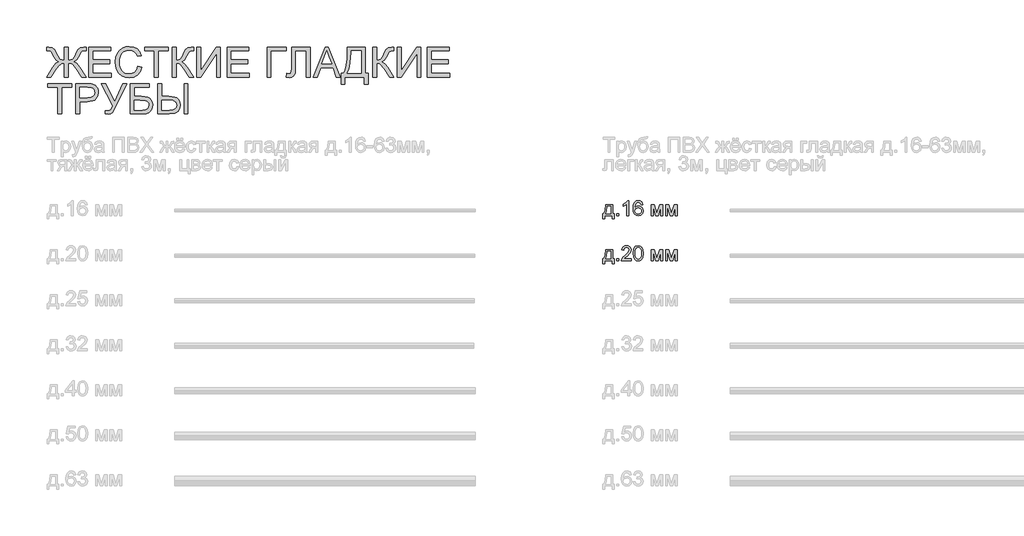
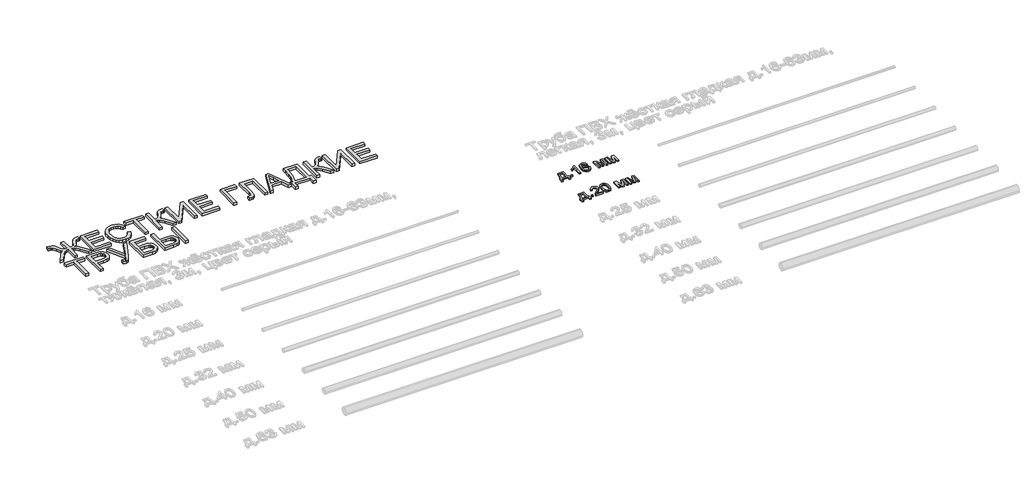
# One storey, part 92 of 98: 3 proxies.
"""IFC4 building model written with IfcOpenShell, lengths in millimetres."""

from ifc_helpers import new_model, si_unit, origin, origin_with_axes, place, context, project, spatial, polyline, outline, extrude, element, save

model = new_model("IFC4")

# Units and contexts
model_context = context("Model", 3, world=origin())
ifc_project = project(units=[si_unit("LENGTHUNIT", "METRE", prefix="MILLI")], contexts=[model_context])

# Site, building, storey
site = spatial("IfcSite", under=ifc_project)
building = spatial("IfcBuilding", under=site)
storey = spatial("IfcBuildingStorey", under=building, Name="Этаж 01", Elevation=0.0)

# Proxies
placement = place(None, origin())
element("IfcBuildingElementProxy", 1, Name="100", ObjectType="100", at=placement, inside=storey, context=model_context, shape_type="SweptSolid", body=[
    extrude(outline(polyline([(3673.0141865, -3563.7647458), (3720.1030819, -3563.7647458), (3720.1030819, -3624.9803098), (3729.520861, -3624.9803098), (3729.520861, -3657.9425366), (3716.9638222, -3657.9425366), (3716.9638222, -3637.5373486), (3665.1660373, -3637.5373486), (3665.1660373, -3657.9425366), (3652.6089985, -3657.9425366), (3652.6089985, -3624.9803098), (3660.4571478, -3624.9803098), (3670.1569697, -3601.031192), (3673.0141865, -3563.7647458)]), holes=[polyline([(3684.0015955, -3576.3217846), (3681.0585395, -3604.9307411), (3674.5838164, -3624.9803098), (3707.5460431, -3624.9803098), (3707.5460431, -3576.3217846), (3684.0015955, -3576.3217846)])]), origin_with_axes(), (0.0, 0.0, 1.0), 10.0),
    extrude(outline(polyline([(3746.7867893, -3637.5373486), (3746.7867893, -3624.9803098), (3759.3438281, -3624.9803098), (3759.3438281, -3637.5373486), (3746.7867893, -3637.5373486)])), origin_with_axes(), (0.0, 0.0, 1.0), 10.0),
    extrude(outline(polyline([(3826.8379114, -3637.5373486), (3814.2808727, -3637.5373486), (3814.2808727, -3559.25206), (3802.3860215, -3567.7256087), (3789.1667951, -3574.0654417), (3789.1667951, -3562.195116), (3807.5731576, -3550.4474176), (3818.7445076, -3537.0810385), (3826.8379114, -3537.0810385), (3826.8379114, -3637.5373486)])), origin_with_axes(), (0.0, 0.0, 1.0), 10.0),
    extrude(outline(polyline([(3921.0157022, -3563.7647458), (3908.4586634, -3565.3343757), (3903.700723, -3554.8620016), (3891.1191587, -3549.6380772), (3879.7883933, -3552.6792351), (3871.2167428, -3564.0958396), (3867.6482874, -3586.4753277), (3878.7215355, -3576.4566747), (3892.4435339, -3573.1825249), (3904.0440795, -3575.4204737), (3913.7806896, -3582.1343201), (3920.3841715, -3592.3920964), (3922.5853321, -3605.2618349), (3918.4405282, -3622.5890769), (3907.0361864, -3634.85181), (3890.5795985, -3639.1069785), (3876.3333682, -3636.2865498), (3864.9872743, -3627.8252639), (3857.5652551, -3612.8892549), (3855.0912487, -3590.644657), (3857.8381009, -3565.6348127), (3866.0786576, -3548.5344312), (3877.3297153, -3539.9443867), (3891.9039737, -3537.0810385), (3902.9220394, -3538.8530034), (3911.7450759, -3544.1688982), (3917.9254935, -3552.61179), (3921.0157022, -3563.7647458)]), holes=[polyline([(3867.6482874, -3605.0656312), (3870.5545552, -3615.9426755), (3878.2800771, -3623.8398757), (3889.5985798, -3626.5499397), (3897.8851218, -3625.1458567), (3904.3996988, -3620.9336079), (3908.6211447, -3614.311732), (3910.0282933, -3605.6787678), (3908.6395388, -3597.3922259), (3904.4732752, -3591.0738526), (3897.8483336, -3587.0731359), (3889.083545, -3585.7395637), (3873.8900186, -3591.0738526), (3869.2087202, -3597.2389417), (3867.6482874, -3605.0656312)])]), origin_with_axes(), (0.0, 0.0, 1.0), 10.0),
    extrude(outline(polyline([(3975.9527468, -3563.7647458), (3997.5596827, -3563.7647458), (4014.2124743, -3622.8220688), (4032.1651157, -3563.7647458), (4052.8646093, -3563.7647458), (4052.8646093, -3637.5373486), (4040.3075705, -3637.5373486), (4040.3075705, -3578.1366691), (4022.2568273, -3637.5373486), (4005.7757139, -3637.5373486), (3988.5097856, -3575.291715), (3988.5097856, -3637.5373486), (3975.9527468, -3637.5373486), (3975.9527468, -3563.7647458)])), origin_with_axes(), (0.0, 0.0, 1.0), 10.0),
    extrude(outline(polyline([(4071.7001674, -3563.7647458), (4093.3071033, -3563.7647458), (4109.9598949, -3622.8220688), (4127.9125363, -3563.7647458), (4148.6120299, -3563.7647458), (4148.6120299, -3637.5373486), (4136.0549911, -3637.5373486), (4136.0549911, -3578.1366691), (4118.0042479, -3637.5373486), (4101.5231345, -3637.5373486), (4084.2572062, -3575.291715), (4084.2572062, -3637.5373486), (4071.7001674, -3637.5373486), (4071.7001674, -3563.7647458)])), origin_with_axes(), (0.0, 0.0, 1.0), 10.0),
])
element("IfcBuildingElementProxy", 2, Name="100", ObjectType="100", at=placement, inside=storey, context=model_context, shape_type="SweptSolid", body=[
    extrude(outline(polyline([(3673.0141865, -3863.7647458), (3720.1030819, -3863.7647458), (3720.1030819, -3924.9803098), (3729.520861, -3924.9803098), (3729.520861, -3957.9425366), (3716.9638222, -3957.9425366), (3716.9638222, -3937.5373486), (3665.1660373, -3937.5373486), (3665.1660373, -3957.9425366), (3652.6089985, -3957.9425366), (3652.6089985, -3924.9803098), (3660.4571478, -3924.9803098), (3670.1569697, -3901.031192), (3673.0141865, -3863.7647458)]), holes=[polyline([(3684.0015955, -3876.3217846), (3681.0585395, -3904.9307411), (3674.5838164, -3924.9803098), (3707.5460431, -3924.9803098), (3707.5460431, -3876.3217846), (3684.0015955, -3876.3217846)])]), origin_with_axes(), (0.0, 0.0, 1.0), 10.0),
    extrude(outline(polyline([(3746.7867893, -3937.5373486), (3746.7867893, -3924.9803098), (3759.3438281, -3924.9803098), (3759.3438281, -3937.5373486), (3746.7867893, -3937.5373486)])), origin_with_axes(), (0.0, 0.0, 1.0), 10.0),
    extrude(outline(polyline([(3844.1038398, -3924.9803098), (3844.1038398, -3937.5373486), (3778.1793862, -3937.5373486), (3779.5282869, -3928.879859), (3787.1557069, -3915.550268), (3802.8765308, -3900.9944038), (3824.5570431, -3880.074181), (3829.9771711, -3865.8494105), (3824.8636114, -3854.334704), (3811.509495, -3849.6380772), (3797.5912928, -3854.2243394), (3792.3060548, -3866.9040055), (3779.7490161, -3865.3343757), (3782.7932396, -3853.1881385), (3789.3752616, -3844.316051), (3799.1517256, -3838.8897916), (3811.7792751, -3837.0810385), (3824.4987951, -3839.0921267), (3834.256865, -3845.1253914), (3840.4648737, -3854.1385003), (3842.5342099, -3865.089121), (3840.3023925, -3876.9962349), (3832.8834389, -3889.308019), (3814.8940093, -3906.5126337), (3800.4485097, -3918.5914259), (3794.7831269, -3924.9803098), (3844.1038398, -3924.9803098)])), origin_with_axes(), (0.0, 0.0, 1.0), 10.0),
    extrude(outline(polyline([(3856.6608785, -3888.1185339), (3860.3519612, -3859.2152718), (3871.3148447, -3842.5502175), (3889.6231053, -3837.0810385), (3904.2893342, -3840.3184), (3914.4183518, -3849.65034), (3920.3044637, -3864.5127726), (3922.5853321, -3888.1185339), (3918.9310376, -3916.8991687), (3908.0049423, -3933.6010113), (3899.7735827, -3937.7304867), (3889.6231053, -3939.1069785), (3876.5755572, -3936.7157455), (3866.6672688, -3929.5420466), (3859.1624761, -3912.5520298), (3856.6608785, -3888.1185339)]), holes=[polyline([(3869.2179173, -3888.0940085), (3870.6894453, -3907.8462059), (3875.1040292, -3919.2781389), (3881.6768542, -3924.7319895), (3889.6231053, -3926.5499397), (3897.5693564, -3924.7258581), (3904.1421814, -3919.2536135), (3908.5567653, -3907.8155491), (3910.0282933, -3888.0940085), (3908.6058162, -3868.7863351), (3904.3383851, -3857.2654973), (3897.7778228, -3851.5449322), (3889.4759525, -3849.6380772), (3881.6155405, -3851.3180717), (3875.3002329, -3856.358055), (3870.7384962, -3868.5962627), (3869.2179173, -3888.0940085)])]), origin_with_axes(), (0.0, 0.0, 1.0), 10.0),
    extrude(outline(polyline([(3975.9527468, -3863.7647458), (3997.5596827, -3863.7647458), (4014.2124743, -3922.8220688), (4032.1651157, -3863.7647458), (4052.8646093, -3863.7647458), (4052.8646093, -3937.5373486), (4040.3075705, -3937.5373486), (4040.3075705, -3878.1366691), (4022.2568273, -3937.5373486), (4005.7757139, -3937.5373486), (3988.5097856, -3875.291715), (3988.5097856, -3937.5373486), (3975.9527468, -3937.5373486), (3975.9527468, -3863.7647458)])), origin_with_axes(), (0.0, 0.0, 1.0), 10.0),
    extrude(outline(polyline([(4071.7001674, -3863.7647458), (4093.3071033, -3863.7647458), (4109.9598949, -3922.8220688), (4127.9125363, -3863.7647458), (4148.6120299, -3863.7647458), (4148.6120299, -3937.5373486), (4136.0549911, -3937.5373486), (4136.0549911, -3878.1366691), (4118.0042479, -3937.5373486), (4101.5231345, -3937.5373486), (4084.2572062, -3875.291715), (4084.2572062, -3937.5373486), (4071.7001674, -3937.5373486), (4071.7001674, -3863.7647458)])), origin_with_axes(), (0.0, 0.0, 1.0), 10.0),
])
element("IfcBuildingElementProxy", 3, Name="200", ObjectType="200", at=placement, inside=storey, context=model_context, shape_type="SweptSolid", body=[
    extrude(outline(polyline([(93.8756847, -2514.6499105), (93.8756847, -2602.5491818), (112.245259, -2600.8569247), (123.7967536, -2595.7801531), (132.834388, -2584.0324548), (143.6623814, -2562.327417), (157.8871518, -2534.2457581), (173.8041795, -2520.2907677), (196.4411849, -2514.6499105), (213.167553, -2514.9442161), (213.167553, -2539.763988), (207.6738485, -2539.6168352), (202.0329913, -2539.4696824), (190.2975556, -2541.0025241), (182.0692617, -2545.601049), (166.8634725, -2571.2546868), (150.7992921, -2599.9740079), (131.1053426, -2612.653674), (150.9587076, -2624.3768469), (170.1989359, -2648.5589567), (213.167553, -2715.5625308), (183.982248, -2715.5625308), (147.537405, -2658.7124998), (122.447853, -2629.8215004), (110.2157766, -2623.4939301), (93.8756847, -2621.38474), (93.8756847, -2715.5625308), (68.7616071, -2715.5625308), (68.7616071, -2621.38474), (55.0089519, -2623.0218149), (42.985342, -2627.9330395), (30.8881557, -2638.2521295), (16.9147713, -2656.1128003), (15.0998868, -2658.7124998), (-21.3449562, -2715.5625308), (-50.5302612, -2715.5625308), (-7.6106951, -2648.5589567), (11.8502625, -2624.3032705), (31.5810002, -2612.653674), (12.9416457, -2601.2983831), (-4.2261807, -2571.2546868), (-19.8734282, -2545.0614887), (-27.9545694, -2541.0883632), (-39.2485466, -2539.763988), (-50.5302612, -2540.0582936), (-50.5302612, -2514.9442161), (-34.6868099, -2514.6499105), (-11.1423622, -2520.1681404), (4.4803599, -2534.0005034), (18.9749105, -2562.376468), (29.8090352, -2584.320629), (38.7669618, -2595.9027805), (50.2755369, -2600.7649542), (68.7616071, -2602.5491818), (68.7616071, -2514.6499105), (93.8756847, -2514.6499105)])), origin_with_axes(), (0.0, 0.0, 1.0), 20.0),
    extrude(outline(polyline([(232.0031111, -2715.5625308), (232.0031111, -2514.6499105), (376.409057, -2514.6499105), (376.409057, -2539.763988), (257.1171887, -2539.763988), (257.1171887, -2599.4099222), (370.1305376, -2599.4099222), (370.1305376, -2624.5239997), (257.1171887, -2624.5239997), (257.1171887, -2690.4484532), (379.5483167, -2690.4484532), (379.5483167, -2715.5625308), (232.0031111, -2715.5625308)])), origin_with_axes(), (0.0, 0.0, 1.0), 20.0),
    extrude(outline(polyline([(558.4861191, -2644.1443728), (583.6001967, -2650.6190959), (572.0119138, -2679.8841086), (553.8262805, -2701.2641839), (529.9384763, -2714.3423888), (501.2436807, -2718.7017905), (472.113558, -2715.4031152), (448.9799119, -2705.5070896), (431.2479997, -2689.35707), (418.323079, -2667.296413), (410.4320102, -2641.3607323), (407.8016539, -2613.5856417), (410.7753667, -2584.2899722), (419.6965051, -2558.9919536), (434.0990852, -2538.4947951), (453.5171232, -2523.6017057), (476.5465361, -2514.5334145), (501.7832409, -2511.5106508), (529.3192083, -2515.4224627), (552.0849724, -2527.1578983), (569.3692948, -2545.9934565), (580.460937, -2571.2056359), (555.3468594, -2577.1898496), (546.6403189, -2558.8754577), (534.7454677, -2546.3122875), (519.5151531, -2539.0466181), (500.8022223, -2536.6247283), (479.2320746, -2539.3102669), (461.5124252, -2547.3668826), (448.0663383, -2559.9484468), (439.3168781, -2576.208831), (434.5160181, -2594.590668), (432.9157314, -2613.5365908), (434.8103237, -2636.7376819), (440.4941005, -2656.7995134), (450.1816597, -2672.9556644), (464.0875992, -2684.439714), (480.7587849, -2691.3007132), (498.7420831, -2693.5877129), (519.7052255, -2690.4729787), (537.1734889, -2681.128776), (550.3620584, -2665.6532068), (558.4861191, -2644.1443728)])), origin_with_axes(), (0.0, 0.0, 1.0), 20.0),
    extrude(outline(polyline([(668.3602083, -2715.5625308), (668.3602083, -2539.763988), (602.4357548, -2539.763988), (602.4357548, -2514.6499105), (759.3987394, -2514.6499105), (759.3987394, -2539.763988), (693.4742859, -2539.763988), (693.4742859, -2715.5625308), (668.3602083, -2715.5625308)])), origin_with_axes(), (0.0, 0.0, 1.0), 20.0),
    extrude(outline(polyline([(787.6520766, -2514.6499105), (812.7661542, -2514.6499105), (812.7661542, -2602.5491818), (829.7684337, -2600.8875815), (840.8478132, -2595.9027805), (849.8057397, -2584.1734762), (860.4436608, -2562.2783661), (874.3005492, -2534.1967071), (889.9968477, -2520.2907677), (912.4376494, -2514.6499105), (928.9187628, -2514.9442161), (928.9187628, -2540.0582936), (923.3760074, -2539.9111408), (917.833252, -2539.763988), (906.3308083, -2541.2723042), (898.2128789, -2545.7972527), (883.3013954, -2571.6470943), (865.5204323, -2603.137793), (848.1809276, -2613.5365908), (867.5683087, -2624.8918817), (886.6859098, -2648.5589567), (928.9187628, -2715.5625308), (899.7825088, -2715.5625308), (864.0734298, -2658.9577544), (838.9348268, -2629.4045675), (827.3281498, -2623.3896969), (812.7661542, -2621.38474), (812.7661542, -2715.5625308), (787.6520766, -2715.5625308), (787.6520766, -2514.6499105)])), origin_with_axes(), (0.0, 0.0, 1.0), 20.0),
    extrude(outline(polyline([(950.8935806, -2514.6499105), (976.0076582, -2514.6499105), (976.0076582, -2673.7711361), (1081.1728579, -2514.6499105), (1107.8565653, -2514.6499105), (1107.8565653, -2715.5625308), (1082.7424877, -2715.5625308), (1082.7424877, -2556.8827635), (977.8225427, -2715.5625308), (950.8935806, -2715.5625308), (950.8935806, -2514.6499105)])), origin_with_axes(), (0.0, 0.0, 1.0), 20.0),
    extrude(outline(polyline([(1151.8062009, -2715.5625308), (1151.8062009, -2514.6499105), (1296.2121468, -2514.6499105), (1296.2121468, -2539.763988), (1176.9202785, -2539.763988), (1176.9202785, -2599.4099222), (1289.9336274, -2599.4099222), (1289.9336274, -2624.5239997), (1176.9202785, -2624.5239997), (1176.9202785, -2690.4484532), (1299.3514065, -2690.4484532), (1299.3514065, -2715.5625308), (1151.8062009, -2715.5625308)])), origin_with_axes(), (0.0, 0.0, 1.0), 20.0),
    extrude(outline(polyline([(1418.6432748, -2514.6499105), (1544.2136625, -2514.6499105), (1544.2136625, -2539.763988), (1443.7573523, -2539.763988), (1443.7573523, -2715.5625308), (1418.6432748, -2715.5625308), (1418.6432748, -2514.6499105)])), origin_with_axes(), (0.0, 0.0, 1.0), 20.0),
    extrude(outline(polyline([(1581.8847788, -2514.6499105), (1704.3159068, -2514.6499105), (1704.3159068, -2715.5625308), (1679.2018292, -2715.5625308), (1679.2018292, -2539.763988), (1606.9988563, -2539.763988), (1606.9988563, -2642.2804373), (1604.0803258, -2688.0204321), (1599.5615086, -2700.9453528), (1591.8421181, -2710.632912), (1581.2716421, -2716.6845709), (1568.1995685, -2718.7017905), (1547.3529222, -2715.5625308), (1550.4921818, -2690.4484532), (1562.5096604, -2693.5877129), (1571.0016031, -2691.9015871), (1577.0532619, -2686.8432097), (1580.6768996, -2675.5308383), (1581.8847788, -2655.0827308), (1581.8847788, -2514.6499105)])), origin_with_axes(), (0.0, 0.0, 1.0), 20.0),
    extrude(outline(polyline([(1724.8682476, -2715.5625308), (1805.0665225, -2514.6499105), (1826.4527292, -2514.6499105), (1906.6510041, -2715.5625308), (1880.1144495, -2715.5625308), (1857.1095621, -2652.7773369), (1774.3606386, -2652.7773369), (1751.4048021, -2715.5625308), (1724.8682476, -2715.5625308)]), holes=[polyline([(1783.582214, -2627.6632594), (1847.9370377, -2627.6632594), (1829.8372435, -2578.2689702), (1815.7596258, -2539.763988), (1803.251638, -2573.9524881), (1783.582214, -2627.6632594)])]), origin_with_axes(), (0.0, 0.0, 1.0), 20.0),
    extrude(outline(polyline([(1952.3174224, -2514.6499105), (2071.6092907, -2514.6499105), (2071.6092907, -2690.4484532), (2090.4448489, -2690.4484532), (2090.4448489, -2762.6514262), (2065.3307714, -2762.6514262), (2065.3307714, -2715.5625308), (1936.621124, -2715.5625308), (1936.621124, -2762.6514262), (1911.5070464, -2762.6514262), (1911.5070464, -2690.4484532), (1927.2033449, -2690.4484532), (1938.1907538, -2667.6673607), (1946.0389031, -2635.6217732), (1950.7477926, -2594.3116908), (1952.3174224, -2543.7371136), (1952.3174224, -2514.6499105)]), holes=[polyline([(2046.4952132, -2539.763988), (1977.4315, -2539.763988), (1977.4315, -2549.8684801), (1972.330203, -2618.6869387), (1964.7763593, -2658.4549824), (1952.3174224, -2690.4484532), (2046.4952132, -2690.4484532), (2046.4952132, -2539.763988)])]), origin_with_axes(), (0.0, 0.0, 1.0), 20.0),
    extrude(outline(polyline([(2121.8374458, -2514.6499105), (2146.9515234, -2514.6499105), (2146.9515234, -2602.5491818), (2163.9538029, -2600.8875815), (2175.0331823, -2595.9027805), (2183.9911089, -2584.1734762), (2194.6290299, -2562.2783661), (2208.4859184, -2534.1967071), (2224.1822169, -2520.2907677), (2246.6230186, -2514.6499105), (2263.104132, -2514.9442161), (2263.104132, -2540.0582936), (2257.5613766, -2539.9111408), (2252.0186212, -2539.763988), (2240.5161775, -2541.2723042), (2232.3982481, -2545.7972527), (2217.4867646, -2571.6470943), (2199.7058015, -2603.137793), (2182.3662968, -2613.5365908), (2201.7536779, -2624.8918817), (2220.8712789, -2648.5589567), (2263.104132, -2715.5625308), (2233.967878, -2715.5625308), (2198.258799, -2658.9577544), (2173.120196, -2629.4045675), (2161.513519, -2623.3896969), (2146.9515234, -2621.38474), (2146.9515234, -2715.5625308), (2121.8374458, -2715.5625308), (2121.8374458, -2514.6499105)])), origin_with_axes(), (0.0, 0.0, 1.0), 20.0),
    extrude(outline(polyline([(2285.0789498, -2514.6499105), (2310.1930274, -2514.6499105), (2310.1930274, -2673.7711361), (2415.358227, -2514.6499105), (2442.0419344, -2514.6499105), (2442.0419344, -2715.5625308), (2416.9278569, -2715.5625308), (2416.9278569, -2556.8827635), (2312.0079119, -2715.5625308), (2285.0789498, -2715.5625308), (2285.0789498, -2514.6499105)])), origin_with_axes(), (0.0, 0.0, 1.0), 20.0),
    extrude(outline(polyline([(2485.9915701, -2715.5625308), (2485.9915701, -2514.6499105), (2630.397516, -2514.6499105), (2630.397516, -2539.763988), (2511.1056477, -2539.763988), (2511.1056477, -2599.4099222), (2624.1189966, -2599.4099222), (2624.1189966, -2624.5239997), (2511.1056477, -2624.5239997), (2511.1056477, -2690.4484532), (2633.5367756, -2690.4484532), (2633.5367756, -2715.5625308), (2485.9915701, -2715.5625308)])), origin_with_axes(), (0.0, 0.0, 1.0), 20.0),
    extrude(outline(polyline([(24.8119715, -2959.5121665), (24.8119715, -2783.7136237), (-41.1124821, -2783.7136237), (-41.1124821, -2758.5995462), (115.8505025, -2758.5995462), (115.8505025, -2783.7136237), (49.926049, -2783.7136237), (49.926049, -2959.5121665), (24.8119715, -2959.5121665)])), origin_with_axes(), (0.0, 0.0, 1.0), 20.0),
    extrude(outline(polyline([(144.1038398, -2959.5121665), (144.1038398, -2758.5995462), (218.5631556, -2758.5995462), (248.5823264, -2760.5125325), (272.9851654, -2769.9057861), (281.8572528, -2778.232182), (288.8040912, -2789.3299555), (293.2922515, -2802.4204232), (294.788305, -2816.7249014), (290.7477344, -2840.4042392), (278.6260227, -2860.1349768), (268.9185365, -2867.9034183), (255.9583604, -2873.4523051), (220.2799382, -2877.8914145), (169.2179173, -2877.8914145), (169.2179173, -2959.5121665), (144.1038398, -2959.5121665)]), holes=[polyline([(169.2179173, -2852.7773369), (221.7514662, -2852.7773369), (244.0205896, -2850.4719431), (258.7358695, -2843.5557616), (266.9396379, -2832.4579881), (269.6742274, -2817.6078182), (268.061678, -2806.3261037), (263.2240298, -2796.8102227), (255.7621567, -2789.6487866), (246.2769325, -2785.4304063), (221.162855, -2783.7136237), (169.2179173, -2783.7136237), (169.2179173, -2852.7773369)])]), origin_with_axes(), (0.0, 0.0, 1.0), 20.0),
    extrude(outline(polyline([(315.193493, -2758.5995462), (343.0053718, -2758.5995462), (403.0927644, -2877.5971089), (457.1468922, -2758.5995462), (484.7135164, -2758.5995462), (408.439316, -2915.1210724), (387.6907715, -2953.5770036), (377.8437968, -2960.3828205), (364.4896803, -2962.6514262), (341.8772004, -2959.5121665), (341.8772004, -2937.5373486), (361.6447262, -2937.5373486), (376.3109551, -2931.9455423), (389.8980635, -2906.4881082), (315.193493, -2758.5995462)])), origin_with_axes(), (0.0, 0.0, 1.0), 20.0),
    extrude(outline(polyline([(508.257964, -2758.5995462), (633.8283517, -2758.5995462), (633.8283517, -2783.7136237), (533.3720416, -2783.7136237), (533.3720416, -2843.3595578), (580.411886, -2843.3595578), (603.7969182, -2844.6348821), (621.8599242, -2848.4608548), (635.7290754, -2855.8307575), (646.5325433, -2867.7378714), (653.485513, -2883.0662879), (655.8031696, -2900.7000982), (654.153832, -2915.5073485), (649.2058191, -2929.3213174), (640.9836565, -2941.4185037), (629.5118697, -2951.075406), (611.8167457, -2957.4029764), (584.9245718, -2959.5121665), (508.257964, -2959.5121665), (508.257964, -2758.5995462)]), holes=[polyline([(533.3720416, -2934.3980889), (587.1809147, -2934.3980889), (606.2004139, -2932.325687), (619.799785, -2926.1084813), (627.9667653, -2915.7464718), (630.689092, -2901.2396584), (629.1317249, -2890.4361905), (624.4596236, -2881.5702344), (617.0100132, -2874.9974094), (607.1201189, -2871.0733348), (569.2773243, -2868.4736354), (533.3720416, -2868.4736354), (533.3720416, -2934.3980889)])]), origin_with_axes(), (0.0, 0.0, 1.0), 20.0),
    extrude(outline(polyline([(866.133569, -2758.5995462), (891.2476465, -2758.5995462), (891.2476465, -2959.5121665), (866.133569, -2959.5121665), (866.133569, -2758.5995462)])), origin_with_axes(), (0.0, 0.0, 1.0), 20.0),
    extrude(outline(polyline([(690.3350262, -2758.5995462), (715.4491037, -2758.5995462), (715.4491037, -2843.3595578), (763.7152215, -2843.3595578), (802.9927558, -2847.7496163), (816.5522731, -2853.2371894), (826.0589569, -2860.9197918), (837.2793578, -2879.657248), (841.0194914, -2900.7491491), (837.06476, -2922.7791492), (825.2005656, -2941.8783562), (815.594247, -2949.5931482), (802.594217, -2955.1037139), (766.4130228, -2959.5121665), (690.3350262, -2959.5121665), (690.3350262, -2758.5995462)]), holes=[polyline([(715.4491037, -2934.3980889), (766.1677681, -2934.3980889), (788.7250658, -2932.4053948), (804.1086646, -2926.4273124), (812.9562266, -2916.0591715), (815.9054139, -2900.8963019), (814.1211862, -2889.9456812), (808.7685032, -2880.9325723), (800.5892601, -2874.3474846), (790.3253525, -2870.6809274), (752.5806598, -2868.4736354), (715.4491037, -2868.4736354), (715.4491037, -2934.3980889)])]), origin_with_axes(), (0.0, 0.0, 1.0), 20.0),
])

save(model, "model.ifc")
